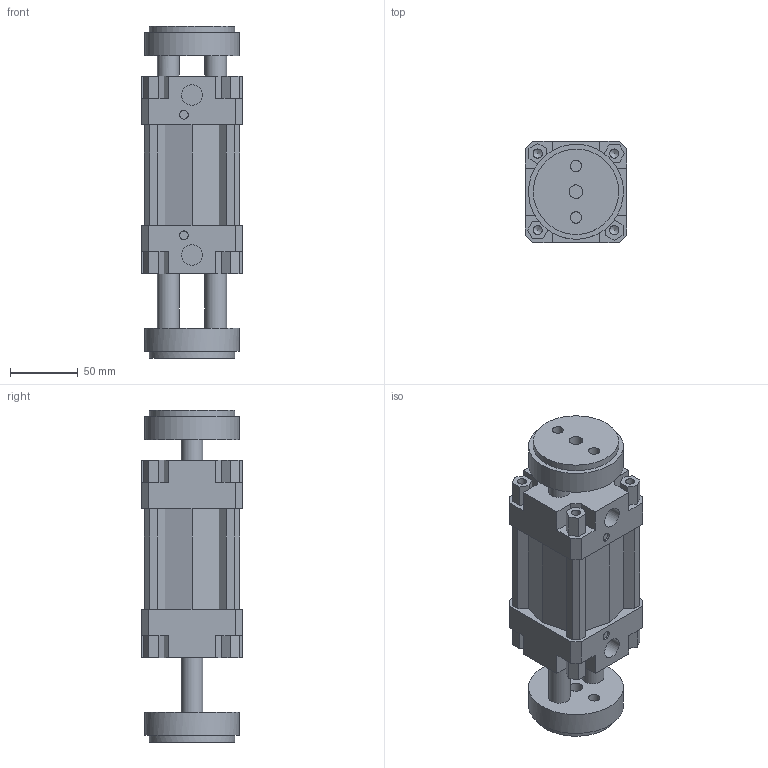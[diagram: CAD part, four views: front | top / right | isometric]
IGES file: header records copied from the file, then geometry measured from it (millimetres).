
Global section: file name: 132#_063_0025_06; native system: Autodesk Inventor 2014; preprocessor: unknown; author: A. Manieri; date: 20161006.155836; units: millimetre
Bounding box: 75 x 75 x 245 mm (x, y, z)
Volume: 792759.9 mm3; surface area: 150767.4 mm2
Topology: 2 solids, 2 shells, 190 faces, 518 edges, 354 vertices
Faces by surface type: bspline 190
